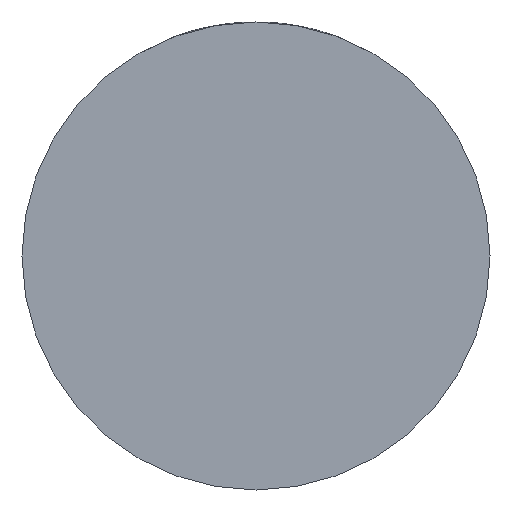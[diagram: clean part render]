
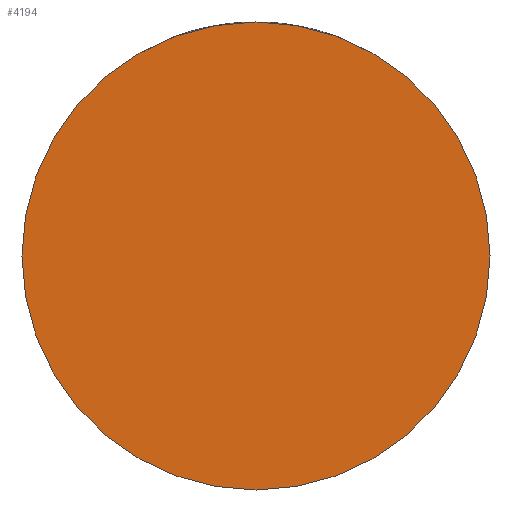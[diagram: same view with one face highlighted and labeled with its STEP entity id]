
A CAD part, front view. The second image highlights one B-rep face of the part: STEP entity #4194.
In plain terms, the highlighted planar face has unit normal (0, -1, 0).
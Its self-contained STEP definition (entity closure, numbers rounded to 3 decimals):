
#159 = CARTESIAN_POINT ( 'NONE',  ( 0., -20., 0. ) ) ;
#699 = DIRECTION ( 'NONE',  ( 1., 0., 0. ) ) ;
#739 = EDGE_LOOP ( 'NONE', ( #4508, #1357 ) ) ;
#850 = DIRECTION ( 'NONE',  ( 0., 1., 0. ) ) ;
#1088 = EDGE_CURVE ( 'NONE', #2593, #4838, #3814, .T. ) ;
#1237 = AXIS2_PLACEMENT_3D ( 'NONE', #2739, #2336, #699 ) ;
#1357 = ORIENTED_EDGE ( 'NONE', *, *, #4398, .F. ) ;
#1413 = CARTESIAN_POINT ( 'NONE',  ( -27.5, -20., 0. ) ) ;
#1472 = AXIS2_PLACEMENT_3D ( 'NONE', #159, #850, #4168 ) ;
#1518 = FACE_OUTER_BOUND ( 'NONE', #739, .T. ) ;
#1539 = CARTESIAN_POINT ( 'NONE',  ( 0., -20., 0. ) ) ;
#2292 = AXIS2_PLACEMENT_3D ( 'NONE', #1539, #4452, #4840 ) ;
#2336 = DIRECTION ( 'NONE',  ( 0., -1., 0. ) ) ;
#2593 = VERTEX_POINT ( 'NONE', #1413 ) ;
#2739 = CARTESIAN_POINT ( 'NONE',  ( 0., -20., 0. ) ) ;
#3543 = CARTESIAN_POINT ( 'NONE',  ( 27.5, -20., 0. ) ) ;
#3675 = CIRCLE ( 'NONE', #2292, 27.5 ) ;
#3814 = CIRCLE ( 'NONE', #1472, 27.5 ) ;
#4168 = DIRECTION ( 'NONE',  ( -1., 0., 0. ) ) ;
#4194 = ADVANCED_FACE ( 'NONE', ( #1518 ), #4427, .T. ) ;
#4398 = EDGE_CURVE ( 'NONE', #4838, #2593, #3675, .T. ) ;
#4427 = PLANE ( 'NONE',  #1237 ) ;
#4452 = DIRECTION ( 'NONE',  ( 0., 1., 0. ) ) ;
#4508 = ORIENTED_EDGE ( 'NONE', *, *, #1088, .F. ) ;
#4838 = VERTEX_POINT ( 'NONE', #3543 ) ;
#4840 = DIRECTION ( 'NONE',  ( -1., 0., 0. ) ) ;
